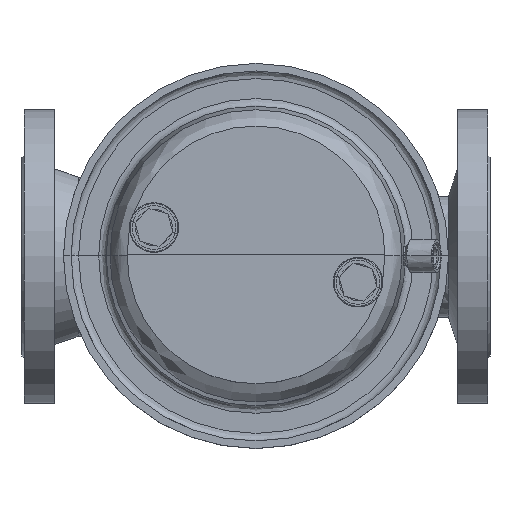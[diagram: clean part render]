
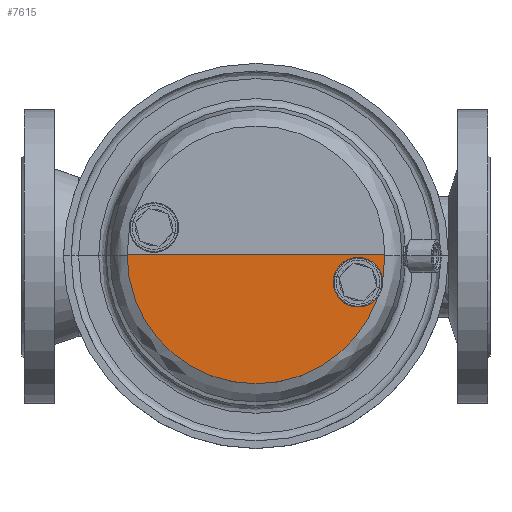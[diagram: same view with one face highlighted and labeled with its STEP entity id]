
A CAD part, top view. The second image highlights one B-rep face of the part: STEP entity #7615.
In plain terms, the highlighted planar face has unit normal (0, 0, 1).
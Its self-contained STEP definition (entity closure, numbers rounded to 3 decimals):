
#514=LINE('',#14692,#870);
#870=VECTOR('',#10251,304.8);
#1523=FACE_OUTER_BOUND('',#2079,.T.);
#2079=EDGE_LOOP('',(#5709,#5710));
#2722=CIRCLE('',#8482,85.362);
#3291=VERTEX_POINT('',#14689);
#3292=VERTEX_POINT('',#14690);
#4102=EDGE_CURVE('',#3292,#3291,#514,.T.);
#4103=EDGE_CURVE('',#3292,#3291,#2722,.T.);
#5709=ORIENTED_EDGE('',*,*,#4103,.T.);
#5710=ORIENTED_EDGE('',*,*,#4102,.F.);
#6713=PLANE('',#8481);
#7615=ADVANCED_FACE('',(#1523),#6713,.F.);
#8481=AXIS2_PLACEMENT_3D('',#14693,#10252,#10253);
#8482=AXIS2_PLACEMENT_3D('',#14694,#10254,#10255);
#10251=DIRECTION('',(1.,0.,0.));
#10252=DIRECTION('center_axis',(0.,0.,-1.));
#10253=DIRECTION('ref_axis',(-1.,0.,0.));
#10254=DIRECTION('center_axis',(0.,0.,1.));
#10255=DIRECTION('ref_axis',(-1.,0.,0.));
#14689=CARTESIAN_POINT('',(85.362,0.,566.029));
#14690=CARTESIAN_POINT('',(-85.362,0.,566.029));
#14692=CARTESIAN_POINT('',(-85.362,0.,566.029));
#14693=CARTESIAN_POINT('Origin',(0.,0.,566.029));
#14694=CARTESIAN_POINT('Origin',(0.,0.,566.029));
